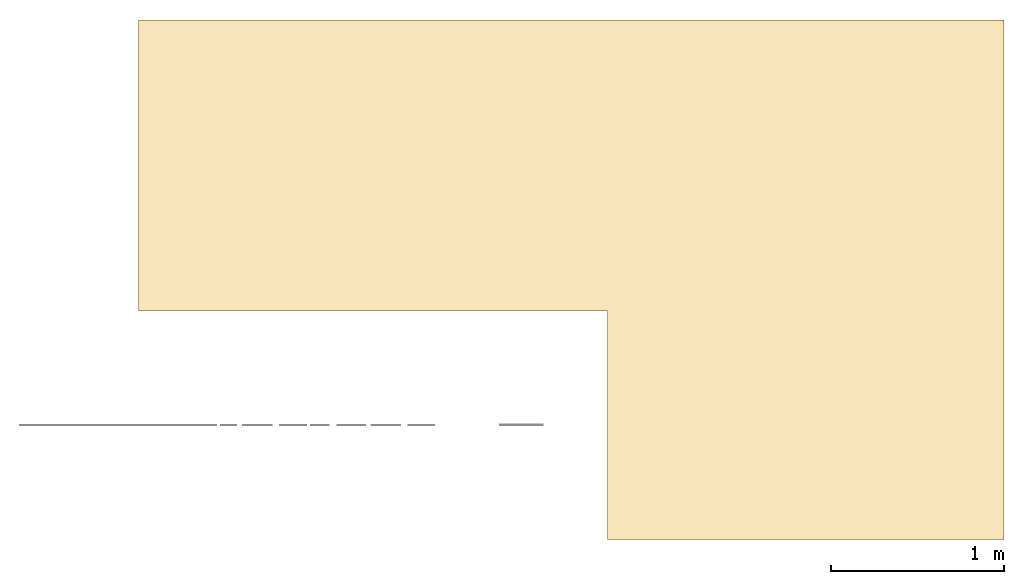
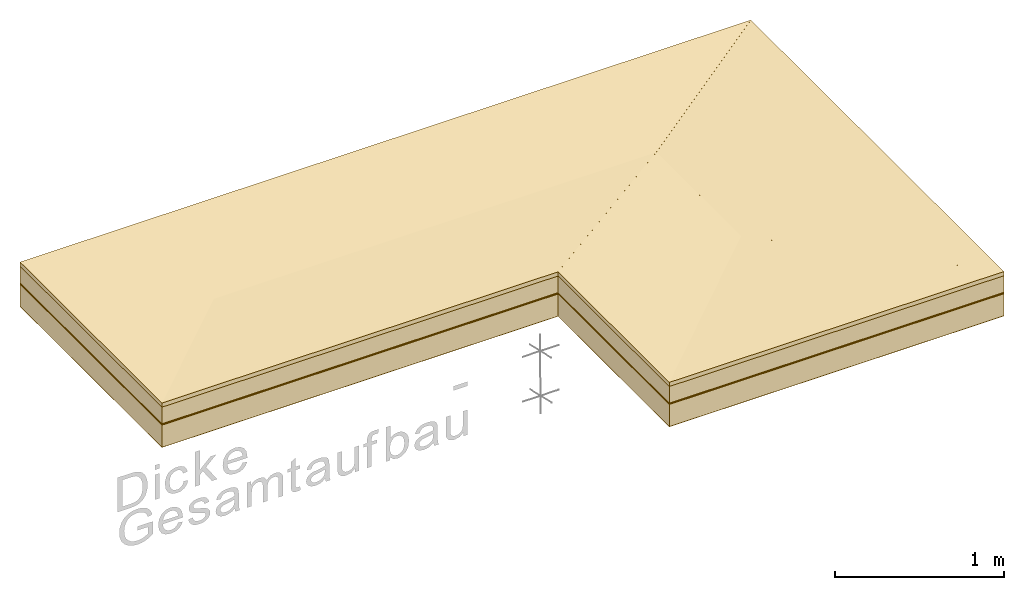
# One storey, part 1 of 3: 6 coverings, 1 element without a shape of its own.
"""IFC4 building model written with IfcOpenShell, lengths in metres."""

import ifcopenshell
import ifcopenshell.guid

model = None  # the IFC model being written
_history = None  # IfcOwnerHistory: only IFC2X3 demands one
_inside = {}  # id of a spatial element -> (the spatial element, [elements in it])
_under = {}  # id of a project, library or spatial element -> (it, [spatial elements below it])
_declared = {}  # id of a project -> (the project, [libraries it declares])
_typed = {}  # id of a type object -> (the type object, [elements of that type])
_made_of = {}  # id of a material, layer set ... -> (it, [elements and type objects made of it])


def new_model(schema):
    """Start an empty IFC model of exactly this schema.

    Asked for "IFC4X3", IfcOpenShell would pick the latest addendum, in which some entities
    have other attributes; the version numbers below select the first issue.
    IFC2X3 requires an IfcOwnerHistory on every rooted entity: one is made here for all.
    """
    global model, _history
    if schema == "IFC4X3":
        model = ifcopenshell.file(schema_version=(4, 3, 0, 0))
    else:
        model = ifcopenshell.file(schema=schema)
    _inside.clear()
    _under.clear()
    _declared.clear()
    _typed.clear()
    _made_of.clear()
    _history = None
    if model.schema == "IFC2X3":
        org = make("IfcOrganization", Name="unknown")
        user = make(
            "IfcPersonAndOrganization",
            ThePerson=make("IfcPerson", FamilyName="unknown"),
            TheOrganization=org,
        )
        app = make(
            "IfcApplication",
            ApplicationDeveloper=org,
            Version="unknown",
            ApplicationFullName="unknown",
            ApplicationIdentifier="unknown",
        )
        _history = make(
            "IfcOwnerHistory",
            OwningUser=user,
            OwningApplication=app,
            ChangeAction="ADDED",
            CreationDate=0,
        )
    return model


def make(cls, **values):
    """One entity of the class cls with the attributes given. An attribute that is None is left unset."""
    return model.create_entity(
        cls, **{name: value for name, value in values.items() if value is not None}
    )


def entity(cls, *values):
    """Any entity or typed value of the class cls, its attributes in the order of the schema. None: left unset."""
    e = model.create_entity(cls)
    for i, value in enumerate(values):
        if value is not None:
            e[i] = value
    return e


def rooted(cls, **values):
    """An entity with a GlobalId (a new one), such as an element, a storey or a relation."""
    return make(cls, GlobalId=ifcopenshell.guid.new(), OwnerHistory=_history, **values)


def si_unit(unit_type, name, prefix=None):
    """IfcSIUnit, for example si_unit("LENGTHUNIT", "METRE", prefix="MILLI")."""
    return make("IfcSIUnit", UnitType=unit_type, Prefix=prefix, Name=name)


def converted_unit(unit_type, name, factor, base, dimensions=None, offset=None):
    """IfcConversionBasedUnit, such as the inch: factor (a typed value) times the base unit."""
    return make(
        "IfcConversionBasedUnit"
        if offset is None
        else "IfcConversionBasedUnitWithOffset",
        ConversionOffset=offset,
        Dimensions=None
        if dimensions is None
        else entity("IfcDimensionalExponents", *dimensions),
        UnitType=unit_type,
        Name=name,
        ConversionFactor=make(
            "IfcMeasureWithUnit", ValueComponent=factor, UnitComponent=base
        ),
    )


def derived_unit(unit_type, elements):
    """IfcDerivedUnit: a product of units, each with its exponent."""
    return make(
        "IfcDerivedUnit",
        Elements=[
            make("IfcDerivedUnitElement", Unit=unit, Exponent=power)
            for unit, power in elements
        ],
        UnitType=unit_type,
    )


def assignment(units):
    """IfcUnitAssignment: the units of a project."""
    return None if units is None else make("IfcUnitAssignment", Units=units)


def point(xyz):
    """IfcCartesianPoint."""
    return None if xyz is None else make("IfcCartesianPoint", Coordinates=xyz)


def direction(xyz):
    """IfcDirection."""
    return None if xyz is None else make("IfcDirection", DirectionRatios=xyz)


def frame(location, z_axis=None, x_axis=None):
    """IfcAxis2Placement3D, a coordinate frame: its origin and axes. An axis left out is left unset."""
    return make(
        "IfcAxis2Placement3D",
        Location=point(location),
        Axis=direction(z_axis),
        RefDirection=direction(x_axis),
    )


def origin():
    """The frame at (0, 0, 0) with its axes left unset."""
    return frame((0.0, 0.0, 0.0))


def place(relative_to, where):
    """IfcLocalPlacement: puts the frame where relative to a parent placement (None: the world)."""
    return make(
        "IfcLocalPlacement", PlacementRelTo=relative_to, RelativePlacement=where
    )


def context(
    kind, dimensions, precision=None, world=None, true_north=None, identifier=None
):
    """IfcGeometricRepresentationContext, for example the 3D "Model" context."""
    return make(
        "IfcGeometricRepresentationContext",
        ContextIdentifier=identifier,
        ContextType=kind,
        CoordinateSpaceDimension=dimensions,
        Precision=precision,
        WorldCoordinateSystem=world,
        TrueNorth=true_north,
    )


def subcontext(parent, identifier, kind, view, scale=None):
    """IfcGeometricRepresentationSubContext, for example "Body" below "Model"."""
    return make(
        "IfcGeometricRepresentationSubContext",
        ContextIdentifier=identifier,
        ContextType=kind,
        ParentContext=parent,
        TargetScale=scale,
        TargetView=view,
    )


def project(units=None, contexts=None):
    """IfcProject with its units and contexts."""
    return rooted(
        "IfcProject",
        Name="project",
        RepresentationContexts=contexts,
        UnitsInContext=assignment(units),
    )


def spatial(cls, under=None, at=None, **own):
    """A site, building, storey or space (cls), placed at a placement, below another one or the project."""
    s = rooted(cls, ObjectPlacement=at, **own)
    if under is not None:
        _under.setdefault(under.id(), (under, []))[1].append(s)
    return s


def polyline(points):
    """IfcPolyline through the points."""
    return make("IfcPolyline", Points=[point(p) for p in points])


def outline(outer, holes=None, kind="AREA"):
    """IfcArbitraryClosedProfileDef: a profile drawn as a closed curve; with holes, ...WithVoids."""
    if holes is None:
        return make("IfcArbitraryClosedProfileDef", ProfileType=kind, OuterCurve=outer)
    return make(
        "IfcArbitraryProfileDefWithVoids",
        ProfileType=kind,
        OuterCurve=outer,
        InnerCurves=holes,
    )


def extrude(swept, where, along, depth):
    """IfcExtrudedAreaSolid: the profile swept, set in the frame where, extruded along a direction by depth."""
    return make(
        "IfcExtrudedAreaSolid",
        SweptArea=swept,
        Position=where,
        ExtrudedDirection=direction(along),
        Depth=depth,
    )


def shape(context_of_items, identifier, shape_type, items):
    """IfcShapeRepresentation: the items that make up one representation, for example the "Body"."""
    return make(
        "IfcShapeRepresentation",
        ContextOfItems=context_of_items,
        RepresentationIdentifier=identifier,
        RepresentationType=shape_type,
        Items=items,
    )


def material(Name=None, Category=None):
    """IfcMaterial."""
    return make("IfcMaterial", Name=Name, Category=Category)


def layer(
    of_material, thickness, ventilated=None, Name=None, Category=None, Priority=None
):
    """IfcMaterialLayer: one layer of a wall or slab, of a material (None: an air gap)."""
    return make(
        "IfcMaterialLayer",
        Material=of_material,
        LayerThickness=thickness,
        IsVentilated=ventilated,
        Name=Name,
        Category=Category,
        Priority=Priority,
    )


def layer_set(layers, Name=None):
    """IfcMaterialLayerSet."""
    return make("IfcMaterialLayerSet", MaterialLayers=layers, LayerSetName=Name)


def layer_usage(for_layer_set, set_direction, sense, offset, extent=None):
    """IfcMaterialLayerSetUsage: how a layer set lies in its element."""
    return make(
        "IfcMaterialLayerSetUsage",
        ForLayerSet=for_layer_set,
        LayerSetDirection=set_direction,
        DirectionSense=sense,
        OffsetFromReferenceLine=offset,
        ReferenceExtent=extent,
    )


def made_of(thing, what):
    """Note that an element or type object is made of a material, layer set ...; save() writes the relation."""
    if what is not None:
        _made_of.setdefault(what.id(), (what, []))[1].append(thing)
    return thing


def element(
    cls,
    number,
    at=None,
    inside=None,
    cuts=None,
    type_object=None,
    material=None,
    context=None,
    identifier="Body",
    shape_type=None,
    held_by="IfcProductDefinitionShape",
    body=None,
    shapes=None,
    **own,
):
    """One element of the class cls, such as IfcWall. Its Tag is "e" and its number.

    at: its placement. inside: the storey or other place that contains it. cuts: it is an
    opening in that element (IfcRelVoidsElement). A single representation is given by context,
    identifier, shape_type and body (its items); several are given by shapes. held_by: the class
    of the entity that holds the representations. save() writes the other relations.
    """
    e = rooted(cls, Tag="e%d" % number, ObjectPlacement=at, **own)
    if body is not None:
        shapes = [shape(context, identifier, shape_type, body)]
    if shapes is not None:
        e.Representation = make(held_by, Representations=shapes)
    if inside is not None:
        _inside.setdefault(inside.id(), (inside, []))[1].append(e)
    if cuts is not None:
        rooted(
            "IfcRelVoidsElement", RelatingBuildingElement=cuts, RelatedOpeningElement=e
        )
    if type_object is not None:
        _typed.setdefault(type_object.id(), (type_object, []))[1].append(e)
    return made_of(e, material)


def aggregate(whole, parts):
    """IfcRelAggregates: a whole, such as a stair, and the parts it consists of."""
    return rooted("IfcRelAggregates", RelatingObject=whole, RelatedObjects=parts)


def save(model, path):
    """Write the relations noted so far, then the file.

    IfcRelAggregates (storeys below a building ...), IfcRelContainedInSpatialStructure (elements
    in a storey), IfcRelDefinesByType, IfcRelAssociatesMaterial and IfcRelDeclares: one each for
    every whole, place, type object, material and project.
    """
    for whole, parts in _under.values():
        aggregate(whole, parts)
    for where, things in _inside.values():
        rooted(
            "IfcRelContainedInSpatialStructure",
            RelatedElements=things,
            RelatingStructure=where,
        )
    for kind, things in _typed.values():
        rooted("IfcRelDefinesByType", RelatedObjects=things, RelatingType=kind)
    for what, things in _made_of.values():
        rooted("IfcRelAssociatesMaterial", RelatedObjects=things, RelatingMaterial=what)
    for by, libraries in _declared.values():
        rooted("IfcRelDeclares", RelatingContext=by, RelatedDefinitions=libraries)
    model.write(path)


model = new_model("IFC4")

# Units and contexts
model_context = context("Model", 3, precision=1e-05, world=origin())
body_context = subcontext(model_context, "Body", "Model", "MODEL_VIEW")
ifc_project = project(units=[si_unit("LENGTHUNIT", "METRE"), si_unit("AREAUNIT", "SQUARE_METRE"), si_unit("VOLUMEUNIT", "CUBIC_METRE"), si_unit("MASSUNIT", "GRAM", prefix="KILO"), converted_unit("PLANEANGLEUNIT", "DEGREE", entity("IfcPlaneAngleMeasure", 0.0174532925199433), si_unit("PLANEANGLEUNIT", "RADIAN"), dimensions=[0, 0, 0, 0, 0, 0, 0]), derived_unit("THERMALTRANSMITTANCEUNIT", [(si_unit("POWERUNIT", "WATT"), 1), (si_unit("THERMODYNAMICTEMPERATUREUNIT", "KELVIN"), -1), (si_unit("LENGTHUNIT", "METRE"), -2)]), derived_unit("VOLUMETRICFLOWRATEUNIT", [(si_unit("LENGTHUNIT", "METRE"), 3), (converted_unit("TIMEUNIT", "hour", entity("IfcTimeMeasure", 3600.0), si_unit("TIMEUNIT", "SECOND"), dimensions=[0, 0, 1, 0, 0, 0, 0]), -1), (si_unit("LENGTHUNIT", "METRE"), -1)])], contexts=[model_context])

# Site, building, storey, space
site_placement = place(None, origin())
site = spatial("IfcSite", under=ifc_project, at=site_placement, Name="Liegenschaft", CompositionType="ELEMENT")
building_placement = place(site_placement, origin())
building = spatial("IfcBuilding", under=site, at=building_placement, Name="Gebäude", CompositionType="ELEMENT")
storey_placement = place(building_placement, origin())
storey = spatial("IfcBuildingStorey", under=building, at=storey_placement, Name="Geschoss 02", CompositionType="ELEMENT", Elevation=0.0)
space_placement = place(storey_placement, frame((128.162507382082, -2.2697740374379, -0.0500000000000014)))
space = spatial("IfcSpace", under=storey, at=space_placement, Name="FD 03", CompositionType="ELEMENT")

# Assembly, coverings
assembly_placement = place(space_placement, frame((-128.162507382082, 2.2697740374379, 0.0500000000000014)))
assembly = element("IfcElementAssembly", 1, at=assembly_placement, inside=space, Name="FD 03", PredefinedType="NOTDEFINED")
ifc_material_1 = material(Name="Dampfsperre")
ifc_layer_1 = layer(ifc_material_1, 0.002)
ifc_layer_set_1 = layer_set([ifc_layer_1], Name="AR_BSCH_DAMPF")
ifc_layer_usage_1 = layer_usage(ifc_layer_set_1, "AXIS3", "POSITIVE", 0.0)
covering_1_placement = place(space_placement, origin())
covering_1 = element("IfcCovering", 2, at=covering_1_placement, material=ifc_layer_usage_1, Name="FD 03", PredefinedType="FLOORING", context=body_context, shape_type="SweptSolid", body=[
    extrude(outline(polyline([(0.840951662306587, 0.842436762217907), (0.0, 0.0), (2.71, 0.0), (3.86862915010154, 0.842436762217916), (0.840951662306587, 0.842436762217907)])), frame((0.0, 1.31809667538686, 0.0500000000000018), z_axis=(1.52193171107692e-16, 0.0593516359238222, 0.998237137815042), x_axis=(1.0, -2.56426244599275e-15, 0.0)), (0.0, -0.0593516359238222, 0.998237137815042), 0.00200353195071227),
    extrude(outline(polyline([(4.15904833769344, 0.842436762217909), (1.13137084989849, 0.842436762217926), (0.0, 0.0), (5.00000000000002, 0.0), (4.15904833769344, 0.842436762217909)])), frame((5.00000000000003, 3.00000000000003, 0.0500000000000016), z_axis=(3.49516039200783e-16, -0.0593516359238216, 0.998237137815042), x_axis=(-1.0, -5.88890320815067e-15, 0.0)), (0.0, -0.0593516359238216, 0.998237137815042), 0.00200353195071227),
    extrude(outline(polyline([(2.15904833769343, 0.0), (1.0004191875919, 1.15970750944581), (0.0, 1.15970750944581), (0.840951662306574, 0.0), (2.15904833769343, 0.0)])), frame((2.71, 2.15904833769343, 0.0500000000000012), z_axis=(0.043114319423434, 0.0, 0.999070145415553), x_axis=(0.0, -1.0, 0.0)), (0.0, -0.043114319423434, 0.999070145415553), 0.00200186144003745),
    extrude(outline(polyline([(0.0, 0.0), (2.29000000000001, 0.0), (1.15862915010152, 1.15970750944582), (0.0, 0.0)])), frame((2.71, 0.0, 0.0500000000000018), z_axis=(8.0995926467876e-16, 0.0431143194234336, 0.999070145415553), x_axis=(1.0, -1.87863168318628e-14, 0.0)), (0.0, -0.0431143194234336, 0.999070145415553), 0.00200186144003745),
    extrude(outline(polyline([(1.15862915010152, 1.13247516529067), (0.0, 0.0), (3.0, 0.0), (2.15904833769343, 1.13247516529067), (1.15862915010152, 1.13247516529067)])), frame((5.00000000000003, 0.0, 0.0500000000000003), z_axis=(-0.0441510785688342, 0.0, 0.99902486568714), x_axis=(0.0, 1.0, 0.0)), (0.0, -0.0441510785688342, 0.99902486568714), 0.00200195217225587),
    extrude(outline(polyline([(1.68190332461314, 0.0), (0.840951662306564, 0.842436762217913), (0.0, 0.0), (1.68190332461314, 0.0)])), frame((0.0, 3.0, 0.0500000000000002), z_axis=(0.0593516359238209, -5.13941375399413e-16, 0.998237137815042), x_axis=(-8.65926216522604e-15, -1.0, 0.0)), (0.0, -0.0593516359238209, 0.998237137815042), 0.00200353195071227),
])
ifc_material_2 = material(Name="Wärmedämmung")
ifc_layer_2 = layer(ifc_material_2, 0.16)
ifc_layer_set_2 = layer_set([ifc_layer_2], Name="AR_BSCH_WD")
ifc_layer_usage_2 = layer_usage(ifc_layer_set_2, "AXIS3", "POSITIVE", 0.0)
covering_2_placement = place(space_placement, frame((0.0, 0.0, 0.002)))
covering_2 = element("IfcCovering", 3, at=covering_2_placement, material=ifc_layer_usage_2, Name="FD 03", PredefinedType="FLOORING", context=body_context, shape_type="SweptSolid", body=[
    extrude(outline(polyline([(0.840951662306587, 0.842436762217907), (0.0, 0.0), (2.71, 0.0), (3.86862915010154, 0.842436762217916), (0.840951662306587, 0.842436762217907)])), frame((0.0, 1.31809667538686, 0.050003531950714), z_axis=(1.52193171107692e-16, 0.0593516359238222, 0.998237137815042), x_axis=(1.0, -2.56426244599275e-15, 0.0)), (0.0, -0.0593516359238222, 0.998237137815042), 0.160282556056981),
    extrude(outline(polyline([(4.15904833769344, 0.842436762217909), (1.13137084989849, 0.842436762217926), (0.0, 0.0), (5.00000000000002, 0.0), (4.15904833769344, 0.842436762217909)])), frame((5.00000000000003, 3.00000000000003, 0.0500035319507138), z_axis=(3.49516039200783e-16, -0.0593516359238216, 0.998237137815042), x_axis=(-1.0, -5.88890320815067e-15, 0.0)), (0.0, -0.0593516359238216, 0.998237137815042), 0.160282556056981),
    extrude(outline(polyline([(2.15904833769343, 0.0), (1.0004191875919, 1.15970750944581), (0.0, 1.15970750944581), (0.840951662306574, 0.0), (2.15904833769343, 0.0)])), frame((2.71, 2.15904833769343, 0.0500018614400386), z_axis=(0.043114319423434, 0.0, 0.999070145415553), x_axis=(0.0, -1.0, 0.0)), (0.0, -0.043114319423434, 0.999070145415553), 0.160148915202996),
    extrude(outline(polyline([(0.0, 0.0), (2.29000000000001, 0.0), (1.15862915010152, 1.15970750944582), (0.0, 0.0)])), frame((2.71, 0.0, 0.0500018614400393), z_axis=(8.0995926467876e-16, 0.0431143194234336, 0.999070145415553), x_axis=(1.0, -1.87863168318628e-14, 0.0)), (0.0, -0.0431143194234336, 0.999070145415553), 0.160148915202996),
    extrude(outline(polyline([(1.15862915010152, 1.13247516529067), (0.0, 0.0), (3.0, 0.0), (2.15904833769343, 1.13247516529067), (1.15862915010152, 1.13247516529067)])), frame((5.00000000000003, 0.0, 0.0500019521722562), z_axis=(-0.0441510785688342, 0.0, 0.99902486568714), x_axis=(0.0, 1.0, 0.0)), (0.0, -0.0441510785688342, 0.99902486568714), 0.16015617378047),
    extrude(outline(polyline([(1.68190332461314, 0.0), (0.840951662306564, 0.842436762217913), (0.0, 0.0), (1.68190332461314, 0.0)])), frame((0.0, 3.0, 0.0500035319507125), z_axis=(0.0593516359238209, -5.13941375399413e-16, 0.998237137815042), x_axis=(-8.65926216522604e-15, -1.0, 0.0)), (0.0, -0.0593516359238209, 0.998237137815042), 0.160282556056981),
])
ifc_material_3 = material(Name="Abdichtung 2-lagig")
ifc_layer_3 = layer(ifc_material_3, 0.005)
ifc_layer_set_3 = layer_set([ifc_layer_3], Name="AR_BSCH_ABD")
ifc_layer_usage_3 = layer_usage(ifc_layer_set_3, "AXIS3", "POSITIVE", 0.0)
covering_3_placement = place(space_placement, frame((0.0, 0.0, 0.162)))
covering_3 = element("IfcCovering", 4, at=covering_3_placement, material=ifc_layer_usage_3, Name="FD 03", PredefinedType="FLOORING", context=body_context, shape_type="SweptSolid", body=[
    extrude(outline(polyline([(0.840951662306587, 0.842436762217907), (0.0, 0.0), (2.71, 0.0), (3.86862915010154, 0.842436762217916), (0.840951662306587, 0.842436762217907)])), frame((0.0, 1.31809667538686, 0.0502860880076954), z_axis=(1.52193171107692e-16, 0.0593516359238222, 0.998237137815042), x_axis=(1.0, -2.56426244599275e-15, 0.0)), (0.0, -0.0593516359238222, 0.998237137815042), 0.00500882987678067),
    extrude(outline(polyline([(4.15904833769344, 0.842436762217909), (1.13137084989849, 0.842436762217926), (0.0, 0.0), (5.00000000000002, 0.0), (4.15904833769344, 0.842436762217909)])), frame((5.00000000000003, 3.00000000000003, 0.0502860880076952), z_axis=(3.49516039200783e-16, -0.0593516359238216, 0.998237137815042), x_axis=(-1.0, -5.88890320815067e-15, 0.0)), (0.0, -0.0593516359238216, 0.998237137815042), 0.00500882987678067),
    extrude(outline(polyline([(2.15904833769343, 0.0), (1.0004191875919, 1.15970750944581), (0.0, 1.15970750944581), (0.840951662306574, 0.0), (2.15904833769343, 0.0)])), frame((2.71, 2.15904833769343, 0.0501507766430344), z_axis=(0.043114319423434, 0.0, 0.999070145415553), x_axis=(0.0, -1.0, 0.0)), (0.0, -0.043114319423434, 0.999070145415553), 0.00500465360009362),
    extrude(outline(polyline([(0.0, 0.0), (2.29000000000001, 0.0), (1.15862915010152, 1.15970750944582), (0.0, 0.0)])), frame((2.71, 0.0, 0.050150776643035), z_axis=(8.0995926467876e-16, 0.0431143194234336, 0.999070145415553), x_axis=(1.0, -1.87863168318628e-14, 0.0)), (0.0, -0.0431143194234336, 0.999070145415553), 0.00500465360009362),
    extrude(outline(polyline([(1.15862915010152, 1.13247516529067), (0.0, 0.0), (3.0, 0.0), (2.15904833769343, 1.13247516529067), (1.15862915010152, 1.13247516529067)])), frame((5.00000000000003, 0.0, 0.0501581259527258), z_axis=(-0.0441510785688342, 0.0, 0.99902486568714), x_axis=(0.0, 1.0, 0.0)), (0.0, -0.0441510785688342, 0.99902486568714), 0.00500488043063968),
    extrude(outline(polyline([(1.68190332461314, 0.0), (0.840951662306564, 0.842436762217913), (0.0, 0.0), (1.68190332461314, 0.0)])), frame((0.0, 3.0, 0.0502860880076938), z_axis=(0.0593516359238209, -5.13941375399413e-16, 0.998237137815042), x_axis=(-8.65926216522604e-15, -1.0, 0.0)), (0.0, -0.0593516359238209, 0.998237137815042), 0.00500882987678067),
])
ifc_material_4 = material(Name="Struktur-/Speichervlies")
ifc_layer_4 = layer(ifc_material_4, 0.005)
ifc_layer_set_4 = layer_set([ifc_layer_4], Name="AR_BSCH_AUFL")
ifc_layer_usage_4 = layer_usage(ifc_layer_set_4, "AXIS3", "POSITIVE", 0.0)
covering_4_placement = place(space_placement, frame((0.0, 0.0, 0.167)))
covering_4 = element("IfcCovering", 5, at=covering_4_placement, material=ifc_layer_usage_4, Name="FD 03", PredefinedType="FLOORING", context=body_context, shape_type="SweptSolid", body=[
    extrude(outline(polyline([(0.840951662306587, 0.842436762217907), (0.0, 0.0), (2.71, 0.0), (3.86862915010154, 0.842436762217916), (0.840951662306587, 0.842436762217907)])), frame((0.0, 1.31809667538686, 0.050294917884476), z_axis=(1.52193171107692e-16, 0.0593516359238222, 0.998237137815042), x_axis=(1.0, -2.56426244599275e-15, 0.0)), (0.0, -0.0593516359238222, 0.998237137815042), 0.00500882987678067),
    extrude(outline(polyline([(4.15904833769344, 0.842436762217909), (1.13137084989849, 0.842436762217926), (0.0, 0.0), (5.00000000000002, 0.0), (4.15904833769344, 0.842436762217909)])), frame((5.00000000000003, 3.00000000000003, 0.0502949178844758), z_axis=(3.49516039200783e-16, -0.0593516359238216, 0.998237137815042), x_axis=(-1.0, -5.88890320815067e-15, 0.0)), (0.0, -0.0593516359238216, 0.998237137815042), 0.00500882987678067),
    extrude(outline(polyline([(2.15904833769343, 0.0), (1.0004191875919, 1.15970750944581), (0.0, 1.15970750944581), (0.840951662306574, 0.0), (2.15904833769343, 0.0)])), frame((2.71, 2.15904833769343, 0.050155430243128), z_axis=(0.043114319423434, 0.0, 0.999070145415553), x_axis=(0.0, -1.0, 0.0)), (0.0, -0.043114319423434, 0.999070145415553), 0.00500465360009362),
    extrude(outline(polyline([(0.0, 0.0), (2.29000000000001, 0.0), (1.15862915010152, 1.15970750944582), (0.0, 0.0)])), frame((2.71, 0.0, 0.0501554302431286), z_axis=(8.0995926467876e-16, 0.0431143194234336, 0.999070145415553), x_axis=(1.0, -1.87863168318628e-14, 0.0)), (0.0, -0.0431143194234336, 0.999070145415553), 0.00500465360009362),
    extrude(outline(polyline([(1.15862915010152, 1.13247516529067), (0.0, 0.0), (3.0, 0.0), (2.15904833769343, 1.13247516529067), (1.15862915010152, 1.13247516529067)])), frame((5.00000000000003, 0.0, 0.0501630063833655), z_axis=(-0.0441510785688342, 0.0, 0.99902486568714), x_axis=(0.0, 1.0, 0.0)), (0.0, -0.0441510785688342, 0.99902486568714), 0.00500488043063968),
    extrude(outline(polyline([(1.68190332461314, 0.0), (0.840951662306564, 0.842436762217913), (0.0, 0.0), (1.68190332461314, 0.0)])), frame((0.0, 3.0, 0.0502949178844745), z_axis=(0.0593516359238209, -5.13941375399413e-16, 0.998237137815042), x_axis=(-8.65926216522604e-15, -1.0, 0.0)), (0.0, -0.0593516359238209, 0.998237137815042), 0.00500882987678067),
])
ifc_material_5 = material(Name="Substrat/Schubsicherung")
ifc_layer_5 = layer(ifc_material_5, 0.12)
ifc_layer_set_5 = layer_set([ifc_layer_5], Name="AR_BSCH_LAT")
ifc_layer_usage_5 = layer_usage(ifc_layer_set_5, "AXIS3", "POSITIVE", 0.0)
covering_5_placement = place(space_placement, frame((0.0, 0.0, 0.172)))
covering_5 = element("IfcCovering", 6, at=covering_5_placement, material=ifc_layer_usage_5, Name="FD 03", PredefinedType="FLOORING", context=body_context, shape_type="SweptSolid", body=[
    extrude(outline(polyline([(0.840951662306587, 0.842436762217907), (0.0, 0.0), (2.71, 0.0), (3.86862915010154, 0.842436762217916), (0.840951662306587, 0.842436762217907)])), frame((0.0, 1.31809667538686, 0.0503037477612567), z_axis=(1.52193171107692e-16, 0.0593516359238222, 0.998237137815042), x_axis=(1.0, -2.56426244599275e-15, 0.0)), (0.0, -0.0593516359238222, 0.998237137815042), 0.120211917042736),
    extrude(outline(polyline([(4.15904833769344, 0.842436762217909), (1.13137084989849, 0.842436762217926), (0.0, 0.0), (5.00000000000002, 0.0), (4.15904833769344, 0.842436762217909)])), frame((5.00000000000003, 3.00000000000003, 0.0503037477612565), z_axis=(3.49516039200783e-16, -0.0593516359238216, 0.998237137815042), x_axis=(-1.0, -5.88890320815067e-15, 0.0)), (0.0, -0.0593516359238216, 0.998237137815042), 0.120211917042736),
    extrude(outline(polyline([(2.15904833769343, 0.0), (1.0004191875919, 1.15970750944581), (0.0, 1.15970750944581), (0.840951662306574, 0.0), (2.15904833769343, 0.0)])), frame((2.71, 2.15904833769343, 0.0501600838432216), z_axis=(0.043114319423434, 0.0, 0.999070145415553), x_axis=(0.0, -1.0, 0.0)), (0.0, -0.043114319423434, 0.999070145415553), 0.120111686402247),
    extrude(outline(polyline([(0.0, 0.0), (2.29000000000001, 0.0), (1.15862915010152, 1.15970750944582), (0.0, 0.0)])), frame((2.71, 0.0, 0.0501600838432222), z_axis=(8.0995926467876e-16, 0.0431143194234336, 0.999070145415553), x_axis=(1.0, -1.87863168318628e-14, 0.0)), (0.0, -0.0431143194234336, 0.999070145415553), 0.120111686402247),
    extrude(outline(polyline([(1.15862915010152, 1.13247516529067), (0.0, 0.0), (3.0, 0.0), (2.15904833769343, 1.13247516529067), (1.15862915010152, 1.13247516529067)])), frame((5.00000000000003, 0.0, 0.0501678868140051), z_axis=(-0.0441510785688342, 0.0, 0.99902486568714), x_axis=(0.0, 1.0, 0.0)), (0.0, -0.0441510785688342, 0.99902486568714), 0.120117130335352),
    extrude(outline(polyline([(1.68190332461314, 0.0), (0.840951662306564, 0.842436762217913), (0.0, 0.0), (1.68190332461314, 0.0)])), frame((0.0, 3.0, 0.0503037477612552), z_axis=(0.0593516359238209, -5.13941375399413e-16, 0.998237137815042), x_axis=(-8.65926216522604e-15, -1.0, 0.0)), (0.0, -0.0593516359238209, 0.998237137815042), 0.120211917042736),
])
ifc_material_6 = material(Name="Vegetationsmatte")
ifc_layer_6 = layer(ifc_material_6, 0.03)
ifc_layer_set_6 = layer_set([ifc_layer_6])
ifc_layer_usage_6 = layer_usage(ifc_layer_set_6, "AXIS3", "POSITIVE", 0.0)
covering_6_placement = place(space_placement, frame((0.0, 0.0, 0.292)))
covering_6 = element("IfcCovering", 7, at=covering_6_placement, material=ifc_layer_usage_6, Name="FD 03", PredefinedType="FLOORING", context=body_context, shape_type="SweptSolid", body=[
    extrude(outline(polyline([(0.840951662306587, 0.842436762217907), (0.0, 0.0), (2.71, 0.0), (3.86862915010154, 0.842436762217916), (0.840951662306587, 0.842436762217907)])), frame((0.0, 1.31809667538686, 0.0505156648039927), z_axis=(1.52193171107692e-16, 0.0593516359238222, 0.998237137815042), x_axis=(1.0, -2.56426244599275e-15, 0.0)), (0.0, -0.0593516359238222, 0.998237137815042), 0.030052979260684),
    extrude(outline(polyline([(4.15904833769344, 0.842436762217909), (1.13137084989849, 0.842436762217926), (0.0, 0.0), (5.00000000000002, 0.0), (4.15904833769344, 0.842436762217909)])), frame((5.00000000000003, 3.00000000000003, 0.0505156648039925), z_axis=(3.49516039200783e-16, -0.0593516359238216, 0.998237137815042), x_axis=(-1.0, -5.88890320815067e-15, 0.0)), (0.0, -0.0593516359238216, 0.998237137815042), 0.030052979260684),
    extrude(outline(polyline([(2.15904833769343, 0.0), (1.0004191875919, 1.15970750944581), (0.0, 1.15970750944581), (0.840951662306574, 0.0), (2.15904833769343, 0.0)])), frame((2.71, 2.15904833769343, 0.0502717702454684), z_axis=(0.043114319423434, 0.0, 0.999070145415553), x_axis=(0.0, -1.0, 0.0)), (0.0, -0.043114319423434, 0.999070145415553), 0.0300279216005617),
    extrude(outline(polyline([(0.0, 0.0), (2.29000000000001, 0.0), (1.15862915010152, 1.15970750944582), (0.0, 0.0)])), frame((2.71, 0.0, 0.050271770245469), z_axis=(8.0995926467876e-16, 0.0431143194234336, 0.999070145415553), x_axis=(1.0, -1.87863168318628e-14, 0.0)), (0.0, -0.0431143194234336, 0.999070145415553), 0.0300279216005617),
    extrude(outline(polyline([(1.15862915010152, 1.13247516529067), (0.0, 0.0), (3.0, 0.0), (2.15904833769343, 1.13247516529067), (1.15862915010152, 1.13247516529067)])), frame((5.00000000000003, 0.0, 0.0502850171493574), z_axis=(-0.0441510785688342, 0.0, 0.99902486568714), x_axis=(0.0, 1.0, 0.0)), (0.0, -0.0441510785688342, 0.99902486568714), 0.0300292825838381),
    extrude(outline(polyline([(1.68190332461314, 0.0), (0.840951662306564, 0.842436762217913), (0.0, 0.0), (1.68190332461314, 0.0)])), frame((0.0, 3.0, 0.0505156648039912), z_axis=(0.0593516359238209, -5.13941375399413e-16, 0.998237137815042), x_axis=(-8.65926216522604e-15, -1.0, 0.0)), (0.0, -0.0593516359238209, 0.998237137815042), 0.030052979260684),
])
aggregate(assembly, [covering_1, covering_2, covering_3, covering_4, covering_5, covering_6])

save(model, "model.ifc")
